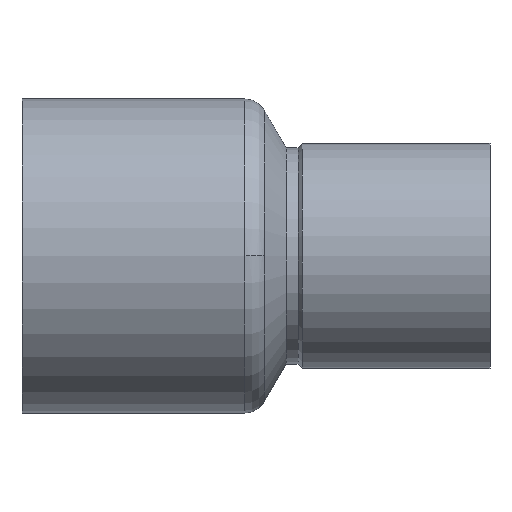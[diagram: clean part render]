
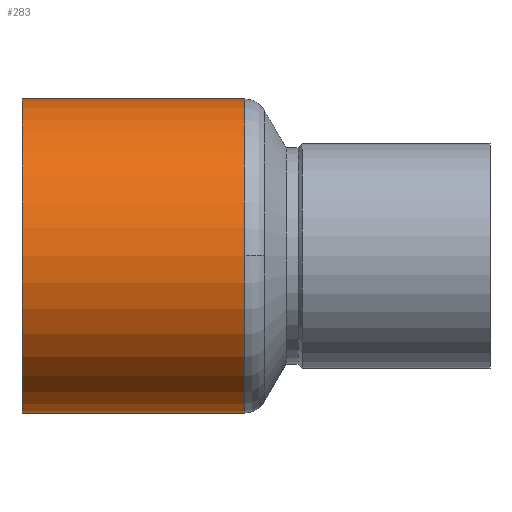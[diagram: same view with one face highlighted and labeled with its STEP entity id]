
A CAD part, top view. The second image highlights one B-rep face of the part: STEP entity #283.
In plain terms, the highlighted cylindrical face has radius 7.05 mm (diameter 14.1 mm), a partial arc.
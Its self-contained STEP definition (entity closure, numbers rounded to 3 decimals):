
#207=CARTESIAN_POINT('',(10.,7.05,0.0));
#208=VERTEX_POINT('',#207);
#216=CARTESIAN_POINT('',(10.,0.,7.05));
#217=VERTEX_POINT('',#216);
#218=CARTESIAN_POINT('',(10.,0.0,0.0));
#219=DIRECTION('',(1.0,0.0,0.0));
#220=DIRECTION('',(0.0,1.0,0.0));
#221=AXIS2_PLACEMENT_3D('',#218,#219,#220);
#222=CIRCLE('',#221,7.05);
#223=EDGE_CURVE('',#208,#217,#222,.T.);
#243=CARTESIAN_POINT('',(5.,0.0,0.0));
#244=DIRECTION('',(1.0,0.0,0.0));
#245=DIRECTION('',(0.0,1.0,0.0));
#246=AXIS2_PLACEMENT_3D('',#243,#244,#245);
#247=CYLINDRICAL_SURFACE('',#246,7.05);
#248=CARTESIAN_POINT('',(0.0,7.05,0.0));
#249=VERTEX_POINT('',#248);
#250=CARTESIAN_POINT('',(0.0,7.05,0.0));
#251=DIRECTION('',(1.0,0.0,0.0));
#252=VECTOR('',#251,10.);
#253=LINE('',#250,#252);
#254=EDGE_CURVE('',#249,#208,#253,.T.);
#255=ORIENTED_EDGE('',*,*,#254,.F.);
#256=CARTESIAN_POINT('',(0.0,-7.05,0.));
#257=VERTEX_POINT('',#256);
#258=CARTESIAN_POINT('',(0.0,0.0,0.0));
#259=DIRECTION('',(1.0,0.0,0.0));
#260=DIRECTION('',(0.0,1.0,0.0));
#261=AXIS2_PLACEMENT_3D('',#258,#259,#260);
#262=CIRCLE('',#261,7.05);
#263=EDGE_CURVE('',#249,#257,#262,.T.);
#264=ORIENTED_EDGE('',*,*,#263,.T.);
#265=CARTESIAN_POINT('',(10.,-7.05,0.));
#266=VERTEX_POINT('',#265);
#267=CARTESIAN_POINT('',(10.,-7.05,0.));
#268=DIRECTION('',(-1.0,0.0,0.0));
#269=VECTOR('',#268,10.);
#270=LINE('',#267,#269);
#271=EDGE_CURVE('',#266,#257,#270,.T.);
#272=ORIENTED_EDGE('',*,*,#271,.F.);
#273=CARTESIAN_POINT('',(10.,0.0,0.0));
#274=DIRECTION('',(1.0,0.0,0.0));
#275=DIRECTION('',(0.0,1.0,0.0));
#276=AXIS2_PLACEMENT_3D('',#273,#274,#275);
#277=CIRCLE('',#276,7.05);
#278=EDGE_CURVE('',#217,#266,#277,.T.);
#279=ORIENTED_EDGE('',*,*,#278,.F.);
#280=ORIENTED_EDGE('',*,*,#223,.F.);
#281=EDGE_LOOP('',(#255,#264,#272,#279,#280));
#282=FACE_OUTER_BOUND('',#281,.T.);
#283=ADVANCED_FACE('',(#282),#247,.T.);
